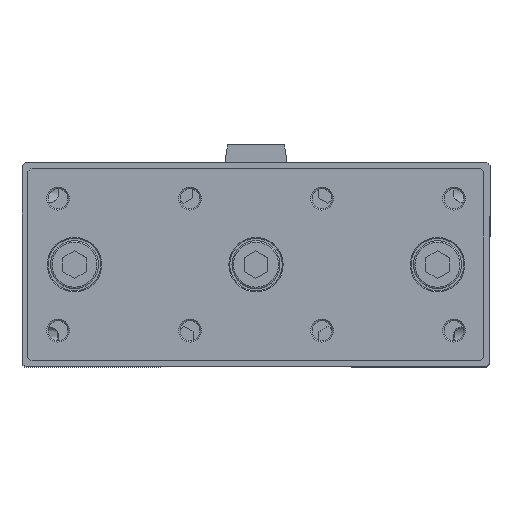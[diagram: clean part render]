
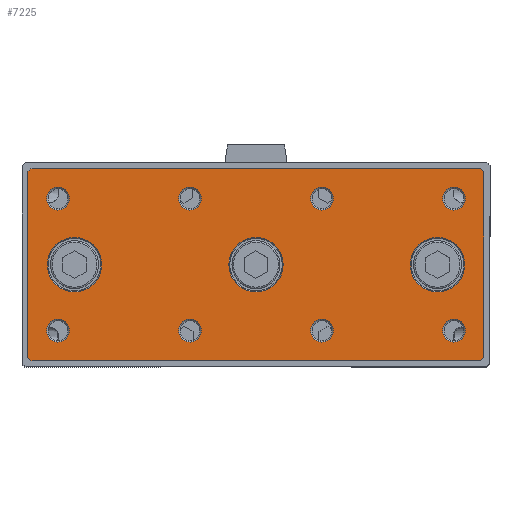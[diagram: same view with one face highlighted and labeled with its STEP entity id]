
A CAD part, top view. The second image highlights one B-rep face of the part: STEP entity #7225.
In plain terms, the highlighted planar face has unit normal (0, 0, 1).
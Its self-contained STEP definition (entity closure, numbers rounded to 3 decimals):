
#6983=CARTESIAN_POINT('',(-82.057,-30.206,131.6));
#6984=VERTEX_POINT('',#6983);
#6985=CARTESIAN_POINT('',(-83.057,-29.206,131.6));
#6986=VERTEX_POINT('',#6985);
#6987=CARTESIAN_POINT('',(-82.057,-30.206,131.6));
#6988=DIRECTION('',(-0.707,0.707,0.0));
#6989=VECTOR('',#6988,1.414);
#6990=LINE('',#6987,#6989);
#6991=EDGE_CURVE('',#6984,#6986,#6990,.T.);
#7024=CARTESIAN_POINT('',(-83.057,32.794,131.6));
#7025=VERTEX_POINT('',#7024);
#7026=CARTESIAN_POINT('',(-83.057,-29.206,131.6));
#7027=DIRECTION('',(0.0,1.0,0.0));
#7028=VECTOR('',#7027,62.);
#7029=LINE('',#7026,#7028);
#7030=EDGE_CURVE('',#6986,#7025,#7029,.T.);
#7049=CARTESIAN_POINT('',(-7.057,1.794,131.6));
#7050=DIRECTION('',(0.0,0.0,1.0));
#7051=DIRECTION('',(1.0,0.0,0.0));
#7052=AXIS2_PLACEMENT_3D('',#7049,#7050,#7051);
#7053=PLANE('',#7052);
#7054=ORIENTED_EDGE('',*,*,#6991,.F.);
#7055=CARTESIAN_POINT('',(67.943,-30.206,131.6));
#7056=VERTEX_POINT('',#7055);
#7057=CARTESIAN_POINT('',(67.943,-30.206,131.6));
#7058=DIRECTION('',(-1.0,0.0,0.0));
#7059=VECTOR('',#7058,150.0);
#7060=LINE('',#7057,#7059);
#7061=EDGE_CURVE('',#7056,#6984,#7060,.T.);
#7062=ORIENTED_EDGE('',*,*,#7061,.F.);
#7063=CARTESIAN_POINT('',(68.943,-29.206,131.6));
#7064=VERTEX_POINT('',#7063);
#7065=CARTESIAN_POINT('',(68.943,-29.206,131.6));
#7066=DIRECTION('',(-0.707,-0.707,0.0));
#7067=VECTOR('',#7066,1.414);
#7068=LINE('',#7065,#7067);
#7069=EDGE_CURVE('',#7064,#7056,#7068,.T.);
#7070=ORIENTED_EDGE('',*,*,#7069,.F.);
#7071=CARTESIAN_POINT('',(68.943,32.794,131.6));
#7072=VERTEX_POINT('',#7071);
#7073=CARTESIAN_POINT('',(68.943,32.794,131.6));
#7074=DIRECTION('',(0.0,-1.0,0.0));
#7075=VECTOR('',#7074,62.);
#7076=LINE('',#7073,#7075);
#7077=EDGE_CURVE('',#7072,#7064,#7076,.T.);
#7078=ORIENTED_EDGE('',*,*,#7077,.F.);
#7079=CARTESIAN_POINT('',(67.943,33.794,131.6));
#7080=VERTEX_POINT('',#7079);
#7081=CARTESIAN_POINT('',(67.943,33.794,131.6));
#7082=DIRECTION('',(0.707,-0.707,0.0));
#7083=VECTOR('',#7082,1.414);
#7084=LINE('',#7081,#7083);
#7085=EDGE_CURVE('',#7080,#7072,#7084,.T.);
#7086=ORIENTED_EDGE('',*,*,#7085,.F.);
#7087=CARTESIAN_POINT('',(-82.057,33.794,131.6));
#7088=VERTEX_POINT('',#7087);
#7089=CARTESIAN_POINT('',(-82.057,33.794,131.6));
#7090=DIRECTION('',(1.0,0.0,0.0));
#7091=VECTOR('',#7090,150.);
#7092=LINE('',#7089,#7091);
#7093=EDGE_CURVE('',#7088,#7080,#7092,.T.);
#7094=ORIENTED_EDGE('',*,*,#7093,.F.);
#7095=CARTESIAN_POINT('',(-83.057,32.794,131.6));
#7096=DIRECTION('',(0.707,0.707,0.0));
#7097=VECTOR('',#7096,1.414);
#7098=LINE('',#7095,#7097);
#7099=EDGE_CURVE('',#7025,#7088,#7098,.T.);
#7100=ORIENTED_EDGE('',*,*,#7099,.F.);
#7101=ORIENTED_EDGE('',*,*,#7030,.F.);
#7102=EDGE_LOOP('',(#7054,#7062,#7070,#7078,#7086,#7094,#7100,#7101));
#7103=FACE_OUTER_BOUND('',#7102,.T.);
#7104=CARTESIAN_POINT('',(-58.507,1.794,131.6));
#7105=VERTEX_POINT('',#7104);
#7106=CARTESIAN_POINT('',(-67.557,1.794,131.6));
#7107=DIRECTION('',(0.0,0.0,1.0));
#7108=DIRECTION('',(-1.0,0.0,0.0));
#7109=AXIS2_PLACEMENT_3D('',#7106,#7107,#7108);
#7110=CIRCLE('',#7109,9.05);
#7111=EDGE_CURVE('',#7105,#7105,#7110,.T.);
#7112=ORIENTED_EDGE('',*,*,#7111,.F.);
#7113=EDGE_LOOP('',(#7112));
#7114=FACE_BOUND('',#7113,.T.);
#7115=CARTESIAN_POINT('',(62.766,-20.206,131.6));
#7116=VERTEX_POINT('',#7115);
#7117=CARTESIAN_POINT('',(58.943,-20.206,131.6));
#7118=DIRECTION('',(0.0,0.0,1.0));
#7119=DIRECTION('',(-1.0,0.0,0.0));
#7120=AXIS2_PLACEMENT_3D('',#7117,#7118,#7119);
#7121=CIRCLE('',#7120,3.823);
#7122=EDGE_CURVE('',#7116,#7116,#7121,.T.);
#7123=ORIENTED_EDGE('',*,*,#7122,.F.);
#7124=EDGE_LOOP('',(#7123));
#7125=FACE_BOUND('',#7124,.T.);
#7126=CARTESIAN_POINT('',(-69.234,-20.206,131.6));
#7127=VERTEX_POINT('',#7126);
#7128=CARTESIAN_POINT('',(-73.057,-20.206,131.6));
#7129=DIRECTION('',(0.0,0.0,1.0));
#7130=DIRECTION('',(-1.0,0.0,0.0));
#7131=AXIS2_PLACEMENT_3D('',#7128,#7129,#7130);
#7132=CIRCLE('',#7131,3.823);
#7133=EDGE_CURVE('',#7127,#7127,#7132,.T.);
#7134=ORIENTED_EDGE('',*,*,#7133,.F.);
#7135=EDGE_LOOP('',(#7134));
#7136=FACE_BOUND('',#7135,.T.);
#7137=CARTESIAN_POINT('',(62.766,23.794,131.6));
#7138=VERTEX_POINT('',#7137);
#7139=CARTESIAN_POINT('',(58.943,23.794,131.6));
#7140=DIRECTION('',(0.0,0.0,1.0));
#7141=DIRECTION('',(-1.0,0.0,0.0));
#7142=AXIS2_PLACEMENT_3D('',#7139,#7140,#7141);
#7143=CIRCLE('',#7142,3.823);
#7144=EDGE_CURVE('',#7138,#7138,#7143,.T.);
#7145=ORIENTED_EDGE('',*,*,#7144,.F.);
#7146=EDGE_LOOP('',(#7145));
#7147=FACE_BOUND('',#7146,.T.);
#7148=CARTESIAN_POINT('',(-69.234,23.794,131.6));
#7149=VERTEX_POINT('',#7148);
#7150=CARTESIAN_POINT('',(-73.057,23.794,131.6));
#7151=DIRECTION('',(0.0,0.0,1.0));
#7152=DIRECTION('',(-1.0,0.0,0.0));
#7153=AXIS2_PLACEMENT_3D('',#7150,#7151,#7152);
#7154=CIRCLE('',#7153,3.823);
#7155=EDGE_CURVE('',#7149,#7149,#7154,.T.);
#7156=ORIENTED_EDGE('',*,*,#7155,.F.);
#7157=EDGE_LOOP('',(#7156));
#7158=FACE_BOUND('',#7157,.T.);
#7159=CARTESIAN_POINT('',(18.766,-20.206,131.6));
#7160=VERTEX_POINT('',#7159);
#7161=CARTESIAN_POINT('',(14.943,-20.206,131.6));
#7162=DIRECTION('',(0.0,0.0,1.0));
#7163=DIRECTION('',(-1.0,0.0,0.0));
#7164=AXIS2_PLACEMENT_3D('',#7161,#7162,#7163);
#7165=CIRCLE('',#7164,3.824);
#7166=EDGE_CURVE('',#7160,#7160,#7165,.T.);
#7167=ORIENTED_EDGE('',*,*,#7166,.F.);
#7168=EDGE_LOOP('',(#7167));
#7169=FACE_BOUND('',#7168,.T.);
#7170=CARTESIAN_POINT('',(-25.234,-20.206,131.6));
#7171=VERTEX_POINT('',#7170);
#7172=CARTESIAN_POINT('',(-29.057,-20.206,131.6));
#7173=DIRECTION('',(0.0,0.0,1.0));
#7174=DIRECTION('',(-1.0,0.0,0.0));
#7175=AXIS2_PLACEMENT_3D('',#7172,#7173,#7174);
#7176=CIRCLE('',#7175,3.823);
#7177=EDGE_CURVE('',#7171,#7171,#7176,.T.);
#7178=ORIENTED_EDGE('',*,*,#7177,.F.);
#7179=EDGE_LOOP('',(#7178));
#7180=FACE_BOUND('',#7179,.T.);
#7181=CARTESIAN_POINT('',(18.766,23.794,131.6));
#7182=VERTEX_POINT('',#7181);
#7183=CARTESIAN_POINT('',(14.943,23.794,131.6));
#7184=DIRECTION('',(0.0,0.0,1.0));
#7185=DIRECTION('',(-1.0,0.0,0.0));
#7186=AXIS2_PLACEMENT_3D('',#7183,#7184,#7185);
#7187=CIRCLE('',#7186,3.824);
#7188=EDGE_CURVE('',#7182,#7182,#7187,.T.);
#7189=ORIENTED_EDGE('',*,*,#7188,.F.);
#7190=EDGE_LOOP('',(#7189));
#7191=FACE_BOUND('',#7190,.T.);
#7192=CARTESIAN_POINT('',(-25.234,23.794,131.6));
#7193=VERTEX_POINT('',#7192);
#7194=CARTESIAN_POINT('',(-29.057,23.794,131.6));
#7195=DIRECTION('',(0.0,0.0,1.0));
#7196=DIRECTION('',(-1.0,0.0,0.0));
#7197=AXIS2_PLACEMENT_3D('',#7194,#7195,#7196);
#7198=CIRCLE('',#7197,3.823);
#7199=EDGE_CURVE('',#7193,#7193,#7198,.T.);
#7200=ORIENTED_EDGE('',*,*,#7199,.F.);
#7201=EDGE_LOOP('',(#7200));
#7202=FACE_BOUND('',#7201,.T.);
#7203=CARTESIAN_POINT('',(62.493,1.794,131.6));
#7204=VERTEX_POINT('',#7203);
#7205=CARTESIAN_POINT('',(53.443,1.794,131.6));
#7206=DIRECTION('',(0.0,0.0,1.0));
#7207=DIRECTION('',(-1.0,0.0,0.0));
#7208=AXIS2_PLACEMENT_3D('',#7205,#7206,#7207);
#7209=CIRCLE('',#7208,9.05);
#7210=EDGE_CURVE('',#7204,#7204,#7209,.T.);
#7211=ORIENTED_EDGE('',*,*,#7210,.F.);
#7212=EDGE_LOOP('',(#7211));
#7213=FACE_BOUND('',#7212,.T.);
#7214=CARTESIAN_POINT('',(1.993,1.794,131.6));
#7215=VERTEX_POINT('',#7214);
#7216=CARTESIAN_POINT('',(-7.057,1.794,131.6));
#7217=DIRECTION('',(0.0,0.0,1.0));
#7218=DIRECTION('',(-1.0,0.0,0.0));
#7219=AXIS2_PLACEMENT_3D('',#7216,#7217,#7218);
#7220=CIRCLE('',#7219,9.05);
#7221=EDGE_CURVE('',#7215,#7215,#7220,.T.);
#7222=ORIENTED_EDGE('',*,*,#7221,.F.);
#7223=EDGE_LOOP('',(#7222));
#7224=FACE_BOUND('',#7223,.T.);
#7225=ADVANCED_FACE('',(#7103,#7114,#7125,#7136,#7147,#7158,#7169,#7180,#7191,#7202,#7213,#7224),#7053,.T.);
